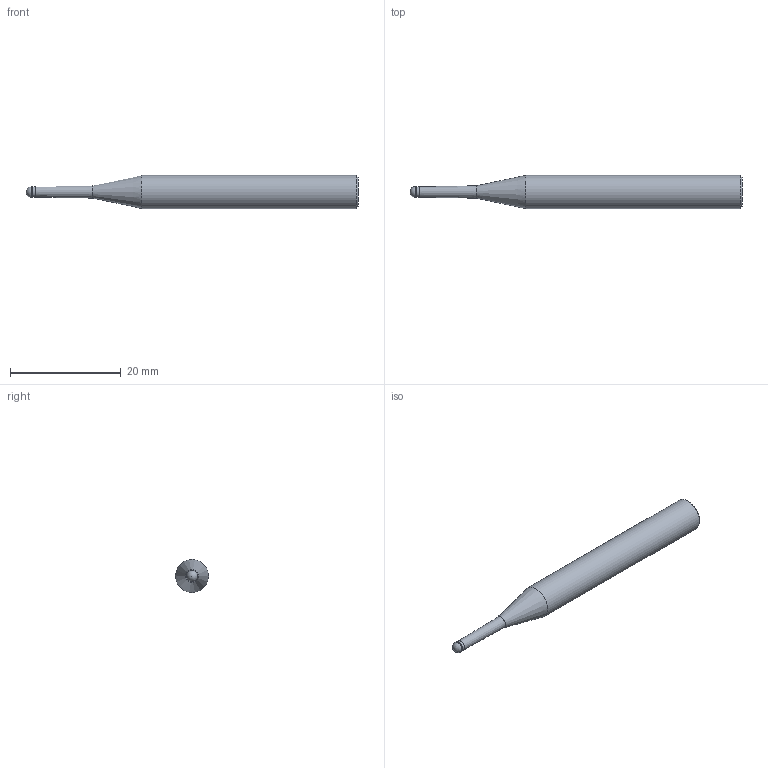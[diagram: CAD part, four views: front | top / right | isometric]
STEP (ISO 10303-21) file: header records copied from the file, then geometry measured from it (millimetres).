
FILE_DESCRIPTION(/* description */ (''),/* implementation_level */ '2;1');
FILE_NAME(/* name */ 'HGXPB2020-12-T0.9 0660.stp',/* time_stamp */ '2026-01-22T09:38:53+08:00',/* author */ (''),/* organization */ (''),/* preprocessor_version */ 'ST-DEVELOPER v16',/* originating_system */ 'SIEMENS PLM Software NX 10.0',/* authorisation */ '');
FILE_SCHEMA (('CONFIG_CONTROL_DESIGN'));
Length unit declared in the file: millimetre
Products named in the file (1): HGXPB2020-12-T0.9 0660_dxf
Bounding box: 60 x 6 x 6 mm (x, y, z)
Volume: 1270 mm3; surface area: 957 mm2
Topology: 1 solids, 1 shells, 9 faces, 16 edges, 9 vertices
Faces by surface type: cylinder 3, cone 3, plane 2, sphere 1
Full cylindrical faces by diameter (mm): 1.9 x1, 2 x1, 6 x1
Entity records: 258 total; most frequent: DIRECTION 36, CARTESIAN_POINT 26, AXIS2_PLACEMENT_3D 18, EDGE_LOOP 16, ORIENTED_EDGE 16, FACE_BOUND 14, ADVANCED_FACE 9, VERTEX_POINT 8
